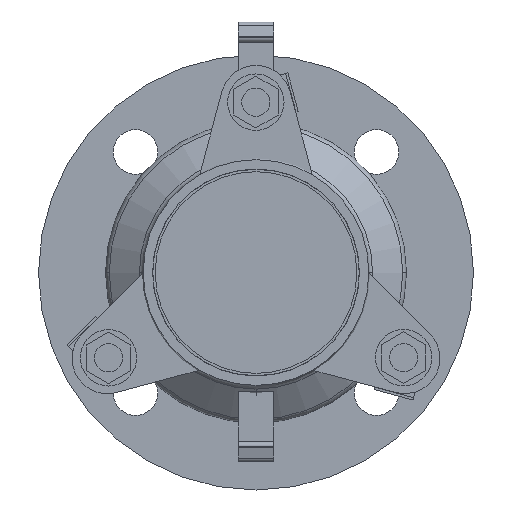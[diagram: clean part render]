
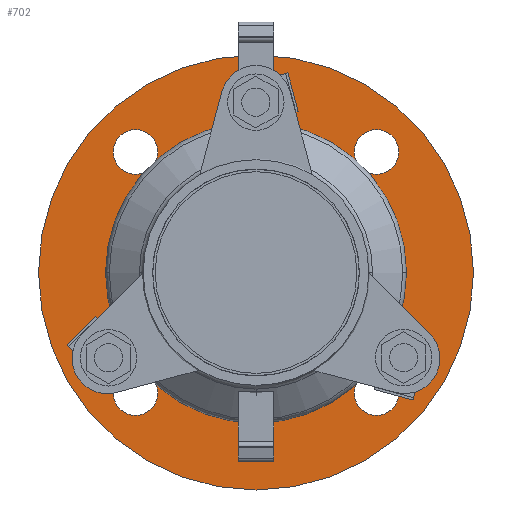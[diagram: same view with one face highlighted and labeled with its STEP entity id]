
A CAD part, left-side view. The second image highlights one B-rep face of the part: STEP entity #702.
In plain terms, the highlighted planar face has unit normal (-1, 0, 0).
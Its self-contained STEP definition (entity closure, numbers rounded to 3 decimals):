
#702=ADVANCED_FACE('',(#1505,#1506,#1507,#1508,#1509,#1510),#1511,.T.);
#1505=FACE_BOUND('',#2693,.T.);
#1506=FACE_BOUND('',#2694,.T.);
#1507=FACE_BOUND('',#2695,.T.);
#1508=FACE_BOUND('',#2696,.T.);
#1509=FACE_BOUND('',#2697,.T.);
#1510=FACE_OUTER_BOUND('',#2698,.T.);
#1511=PLANE('',#2699);
#2693=EDGE_LOOP('',(#3666,#3667));
#2694=EDGE_LOOP('',(#3668,#3669));
#2695=EDGE_LOOP('',(#3670,#3671));
#2696=EDGE_LOOP('',(#3672,#3673));
#2697=EDGE_LOOP('',(#3674,#3675));
#2698=EDGE_LOOP('',(#3676,#3677));
#2699=AXIS2_PLACEMENT_3D('',#3678,#3679,#3680);
#3666=ORIENTED_EDGE('',*,*,#6228,.T.);
#3667=ORIENTED_EDGE('',*,*,#6229,.T.);
#3668=ORIENTED_EDGE('',*,*,#6230,.T.);
#3669=ORIENTED_EDGE('',*,*,#6231,.T.);
#3670=ORIENTED_EDGE('',*,*,#6232,.T.);
#3671=ORIENTED_EDGE('',*,*,#6233,.T.);
#3672=ORIENTED_EDGE('',*,*,#6234,.T.);
#3673=ORIENTED_EDGE('',*,*,#6235,.T.);
#3674=ORIENTED_EDGE('',*,*,#6236,.T.);
#3675=ORIENTED_EDGE('',*,*,#6237,.T.);
#3676=ORIENTED_EDGE('',*,*,#6238,.F.);
#3677=ORIENTED_EDGE('',*,*,#6239,.F.);
#3678=CARTESIAN_POINT('',(-19.0,0.0,0.));
#3679=DIRECTION('',(-1.0,0.0,0.));
#3680=DIRECTION('',(0.,0.0,-1.0));
#6228=EDGE_CURVE('',#7241,#7242,#7243,.T.);
#6229=EDGE_CURVE('',#7242,#7241,#7244,.T.);
#6230=EDGE_CURVE('',#7245,#7246,#7247,.T.);
#6231=EDGE_CURVE('',#7246,#7245,#7248,.T.);
#6232=EDGE_CURVE('',#7249,#7250,#7251,.T.);
#6233=EDGE_CURVE('',#7250,#7249,#7252,.T.);
#6234=EDGE_CURVE('',#7253,#7254,#7255,.T.);
#6235=EDGE_CURVE('',#7254,#7253,#7256,.T.);
#6236=EDGE_CURVE('',#7257,#7258,#7259,.T.);
#6237=EDGE_CURVE('',#7258,#7257,#7260,.T.);
#6238=EDGE_CURVE('',#7261,#7262,#7263,.T.);
#6239=EDGE_CURVE('',#7262,#7261,#7264,.T.);
#7241=VERTEX_POINT('',#8693);
#7242=VERTEX_POINT('',#8694);
#7243=CIRCLE('',#8695,32.5);
#7244=CIRCLE('',#8696,32.5);
#7245=VERTEX_POINT('',#8697);
#7246=VERTEX_POINT('',#8698);
#7247=CIRCLE('',#8699,9.5);
#7248=CIRCLE('',#8700,9.5);
#7249=VERTEX_POINT('',#8701);
#7250=VERTEX_POINT('',#8702);
#7251=CIRCLE('',#8703,9.5);
#7252=CIRCLE('',#8704,9.5);
#7253=VERTEX_POINT('',#8705);
#7254=VERTEX_POINT('',#8706);
#7255=CIRCLE('',#8707,9.5);
#7256=CIRCLE('',#8708,9.5);
#7257=VERTEX_POINT('',#8709);
#7258=VERTEX_POINT('',#8710);
#7259=CIRCLE('',#8711,9.5);
#7260=CIRCLE('',#8712,9.5);
#7261=VERTEX_POINT('',#8713);
#7262=VERTEX_POINT('',#8714);
#7263=CIRCLE('',#8715,92.5);
#7264=CIRCLE('',#8716,92.5);
#8693=CARTESIAN_POINT('',(-19.0,0.0,32.5));
#8694=CARTESIAN_POINT('',(-19.0,0.,-32.5));
#8695=AXIS2_PLACEMENT_3D('',#10564,#10565,#10566);
#8696=AXIS2_PLACEMENT_3D('',#10567,#10568,#10569);
#8697=CARTESIAN_POINT('',(-19.0,-51.265,-60.765));
#8698=CARTESIAN_POINT('',(-19.0,-51.265,-41.765));
#8699=AXIS2_PLACEMENT_3D('',#10570,#10571,#10572);
#8700=AXIS2_PLACEMENT_3D('',#10573,#10574,#10575);
#8701=CARTESIAN_POINT('',(-19.0,-51.265,41.765));
#8702=CARTESIAN_POINT('',(-19.0,-51.265,60.765));
#8703=AXIS2_PLACEMENT_3D('',#10576,#10577,#10578);
#8704=AXIS2_PLACEMENT_3D('',#10579,#10580,#10581);
#8705=CARTESIAN_POINT('',(-19.0,51.265,41.765));
#8706=CARTESIAN_POINT('',(-19.0,51.265,60.765));
#8707=AXIS2_PLACEMENT_3D('',#10582,#10583,#10584);
#8708=AXIS2_PLACEMENT_3D('',#10585,#10586,#10587);
#8709=CARTESIAN_POINT('',(-19.0,51.265,-60.765));
#8710=CARTESIAN_POINT('',(-19.0,51.265,-41.765));
#8711=AXIS2_PLACEMENT_3D('',#10588,#10589,#10590);
#8712=AXIS2_PLACEMENT_3D('',#10591,#10592,#10593);
#8713=CARTESIAN_POINT('',(-19.0,0.0,-92.5));
#8714=CARTESIAN_POINT('',(-19.0,0.,92.5));
#8715=AXIS2_PLACEMENT_3D('',#10594,#10595,#10596);
#8716=AXIS2_PLACEMENT_3D('',#10597,#10598,#10599);
#10564=CARTESIAN_POINT('',(-19.0,0.0,0.));
#10565=DIRECTION('',(1.0,0.0,0.));
#10566=DIRECTION('',(0.,0.0,1.0));
#10567=CARTESIAN_POINT('',(-19.0,0.0,0.));
#10568=DIRECTION('',(1.0,0.0,0.));
#10569=DIRECTION('',(0.,0.0,1.0));
#10570=CARTESIAN_POINT('',(-19.0,-51.265,-51.265));
#10571=DIRECTION('',(1.0,0.0,0.));
#10572=DIRECTION('',(0.,0.0,-1.0));
#10573=CARTESIAN_POINT('',(-19.0,-51.265,-51.265));
#10574=DIRECTION('',(1.0,0.0,0.));
#10575=DIRECTION('',(0.,0.0,-1.0));
#10576=CARTESIAN_POINT('',(-19.0,-51.265,51.265));
#10577=DIRECTION('',(1.0,0.0,0.));
#10578=DIRECTION('',(0.,0.0,-1.0));
#10579=CARTESIAN_POINT('',(-19.0,-51.265,51.265));
#10580=DIRECTION('',(1.0,0.0,0.));
#10581=DIRECTION('',(0.,0.0,-1.0));
#10582=CARTESIAN_POINT('',(-19.0,51.265,51.265));
#10583=DIRECTION('',(1.0,0.0,0.));
#10584=DIRECTION('',(0.,0.0,-1.0));
#10585=CARTESIAN_POINT('',(-19.0,51.265,51.265));
#10586=DIRECTION('',(1.0,0.0,0.));
#10587=DIRECTION('',(0.,0.0,-1.0));
#10588=CARTESIAN_POINT('',(-19.0,51.265,-51.265));
#10589=DIRECTION('',(1.0,0.0,0.));
#10590=DIRECTION('',(0.,0.0,-1.0));
#10591=CARTESIAN_POINT('',(-19.0,51.265,-51.265));
#10592=DIRECTION('',(1.0,0.0,0.));
#10593=DIRECTION('',(0.,0.0,-1.0));
#10594=CARTESIAN_POINT('',(-19.0,0.0,0.));
#10595=DIRECTION('',(1.0,0.0,0.));
#10596=DIRECTION('',(0.,0.0,-1.0));
#10597=CARTESIAN_POINT('',(-19.0,0.0,0.));
#10598=DIRECTION('',(1.0,0.0,0.));
#10599=DIRECTION('',(0.,0.0,-1.0));
